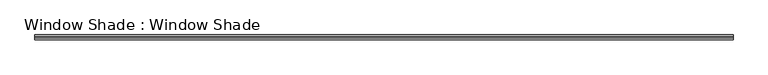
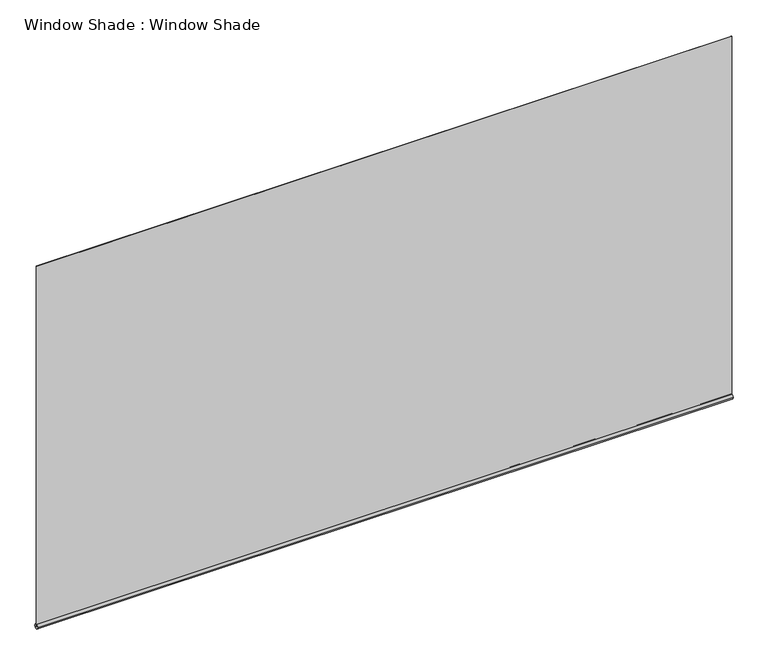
"""IFC4 building model written with IfcOpenShell, lengths in millimetres: furniture geometry, Window Shade : Window Shade."""

from ifc_helpers import new_model, si_unit, point, frame, frame_2d, origin, place, context, project, spatial, polyline, circle_curve, trimmed, segment, composite_curve, outline, extrude, source, transform, mapped, element, save


def window_shade_window_shade_a75a8817(model_context):
    return source(origin(), model_context, "Body", "SweptSolid", [
        extrude(outline(polyline([(1865.8406718, 1.5875), (1865.8406718, -1.5875), (-1865.8406718, -1.5875), (-1865.8406718, 1.5875), (1865.8406718, 1.5875)])), frame((0.0, 0.0, 1613.3957276), z_axis=(0.0, 0.0, 1.0), x_axis=(1.0, 0.0, 0.0)), (0.0, 0.0, 1.0), 2044.2042724),
        extrude(outline(composite_curve([segment(trimmed(circle_curve(frame_2d((0.0, 1613.3957276)), 12.7), [point((-12.7, 1613.3957276))], [point((12.7, 1613.3957276))], False, "CARTESIAN"), True, "CONTINUOUS"), segment(trimmed(circle_curve(frame_2d((0.0, 1613.3957276)), 12.7), [point((12.7, 1613.3957276))], [point((-12.7, 1613.3957276))], False, "CARTESIAN"), True, "CONTINUOUS")], self_intersect=False)), frame((-1865.8406718, 0.0, 0.0), z_axis=(1.0, 0.0, 0.0), x_axis=(0.0, 1.0, 0.0)), (0.0, 0.0, 1.0), 3731.6813435),
    ])


if __name__ == "__main__":
    model = new_model("IFC4")
    model_context = context("Model", 3, world=origin())
    ifc_project = project(units=[si_unit("LENGTHUNIT", "METRE", prefix="MILLI")], contexts=[model_context])
    site = spatial("IfcSite", under=ifc_project)
    building = spatial("IfcBuilding", under=site)
    placement = place(None, origin())
    window_shade_window_shade_shape = window_shade_window_shade_a75a8817(model_context)
    element("IfcFurniture", 1, ObjectType="Window Shade : Window Shade", at=placement, inside=building, context=model_context, shape_type="MappedRepresentation", body=[
        mapped(window_shade_window_shade_shape, transform((0.0, 0.0, 0.0), x_axis=(1.0, 0.0, 0.0), y_axis=(0.0, 1.0, 0.0), z_axis=(0.0, 0.0, 1.0))),
    ])
    save(model, "model.ifc")
